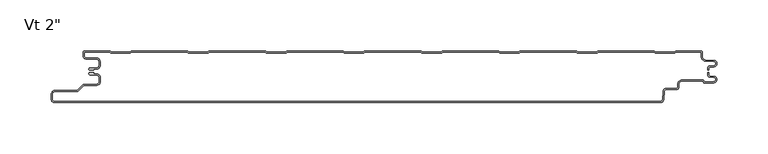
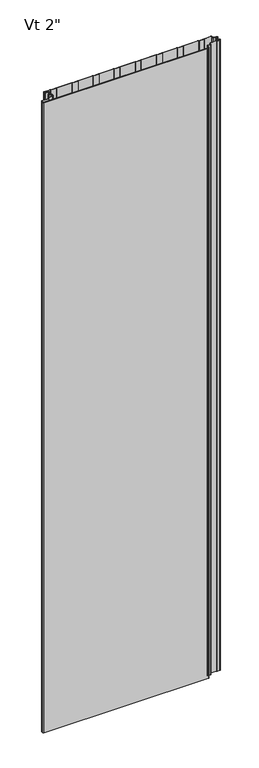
"""IFC4 building model written with IfcOpenShell, lengths in millimetres: plate geometry."""

from ifc_helpers import new_model, si_unit, point, frame, frame_2d, origin, origin_with_axes, place, context, project, spatial, polyline, circle_curve, trimmed, segment, composite_curve, outline, extrude, source, transform, mapped, element, save
from ifc_brep_helpers import plane_surface, cylinder_surface, revolved_surface, advanced_brep


def plate_a8da08d8(model_context):
    return source(origin(), model_context, "Body", "SolidModel", [
        advanced_brep(
        [(-302.7686912, -17.0015159, 2400.0), (-303.7686884, -18.0015191, 2400.0), (-302.7686912, -19.0015104, 2400.0), (-298.7684875, -19.0015105, 2400.0), (-298.7684875, -18.0015159, 2400.0), (-296.0762777, -18.0015159, 2400.0), (-292.776282, -14.7015202, 2400.0), (-292.776282, -10.301529, 2400.0), (-296.0762775, -7.0015335, 2400.0), (-306.4962564, -7.0015335, 2400.0), (-308.2662506, -5.2315393, 2400.0), (-308.2662506, -0.9999916, 2400.0), (-283.765974, -0.9999916, 2400.0), (-282.3803314, -2.2002307, 2400.0), (-263.0051651, -2.2002307, 2400.0), (-261.6195321, -1.0, 2400.0), (-207.5661167, -1.0, 2400.0), (-206.1804838, -2.2002307, 2400.0), (-186.8053175, -2.2002307, 2400.0), (-185.4196845, -1.0, 2400.0), (-131.3662691, -1.0, 2400.0), (-129.9806362, -2.2002307, 2400.0), (-110.6054699, -2.2002307, 2400.0), (-109.2198369, -1.0, 2400.0), (-55.1664215, -1.0, 2400.0), (-53.7807886, -2.2002307, 2400.0), (-34.4056223, -2.2002307, 2400.0), (-33.0199893, -1.0, 2400.0), (21.0334261, -1.0, 2400.0), (22.419059, -2.2002307, 2400.0), (41.7942253, -2.2002307, 2400.0), (43.1798583, -1.0, 2400.0), (97.2332737, -1.0, 2400.0), (98.6189066, -2.2002307, 2400.0), (117.9940729, -2.2002307, 2400.0), (119.3797059, -1.0, 2400.0), (173.4331213, -1.0, 2400.0), (174.8187542, -2.2002307, 2400.0), (194.1939205, -2.2002307, 2400.0), (195.5795535, -1.0, 2400.0), (249.6329689, -1.0, 2400.0), (251.0186018, -2.2002307, 2400.0), (270.3937681, -2.2002307, 2400.0), (271.7794011, -1.0, 2400.0), (296.2787013, -1.0, 2400.0), (296.2787013, -6.0026007, 2400.0), (300.1016499, -9.9974365, 2400.0), (308.5931719, -10.4046442, 2400.0), (308.5921924, -14.7059822, 2400.0), (304.4513685, -14.9256429, 2400.0), (302.7686884, -16.6743462, 2400.0), (302.7686884, -19.0015288, 2400.0), (303.7686884, -19.0015288, 2400.0), (303.7686884, -16.6743462, 2400.0), (304.4955779, -15.9247038, 2400.0), (308.6451655, -15.7045782, 2400.0), (308.6435732, -9.405912, 2400.0), (300.1495495, -8.9985844, 2400.0), (297.2787013, -6.0004836, 2400.0), (297.2787013, -1.4015652, 2400.0), (295.878797, -0.001568, 2400.0), (271.9275849, 2.09e-05, 2400.0), (271.0119353, -0.3417885, 2400.0), (270.0208877, -1.2002307, 2400.0), (251.3914823, -1.2002307, 2400.0), (250.4004346, -0.3417885, 2400.0), (249.4838177, 0.0, 2400.0), (195.7287046, 0.0, 2400.0), (194.8120877, -0.3417885, 2400.0), (193.8210401, -1.2002307, 2400.0), (175.1916347, -1.2002307, 2400.0), (174.200587, -0.3417885, 2400.0), (173.2839701, 0.0, 2400.0), (119.528857, 0.0, 2400.0), (118.6122401, -0.3417885, 2400.0), (117.6211925, -1.2002307, 2400.0), (98.9917871, -1.2002307, 2400.0), (98.0007394, -0.3417885, 2400.0), (97.0841225, 0.0, 2400.0), (43.3290094, 0.0, 2400.0), (42.4123925, -0.3417885, 2400.0), (41.4213449, -1.2002307, 2400.0), (22.7919395, -1.2002307, 2400.0), (21.8008918, -0.3417885, 2400.0), (20.8842749, 0.0, 2400.0), (-32.8708382, 0.0, 2400.0), (-33.7874551, -0.3417885, 2400.0), (-34.7785027, -1.2002307, 2400.0), (-53.4079081, -1.2002307, 2400.0), (-54.3989558, -0.3417885, 2400.0), (-55.3155727, 0.0, 2400.0), (-109.0706858, 0.0, 2400.0), (-109.9873027, -0.3417885, 2400.0), (-110.9783503, -1.2002307, 2400.0), (-129.6077557, -1.2002307, 2400.0), (-130.5988034, -0.3417885, 2400.0), (-131.5154203, 0.0, 2400.0), (-185.2705334, 0.0, 2400.0), (-186.1871503, -0.3417885, 2400.0), (-187.1781979, -1.2002307, 2400.0), (-205.8076033, -1.2002307, 2400.0), (-206.798651, -0.3417885, 2400.0), (-207.7152679, 0.0, 2400.0), (-261.470381, 0.0, 2400.0), (-262.3869979, -0.3417885, 2400.0), (-263.3780455, -1.2002307, 2400.0), (-282.0074509, -1.2002307, 2400.0), (-282.9984986, -0.3417885, 2400.0), (-283.9152069, 0.0, 2400.0), (-307.8662545, 8.4e-06, 2400.0), (-309.2662506, -1.3999878, 2400.0), (-309.2662506, -5.2315393, 2400.0), (-306.4962564, -8.0015335, 2400.0), (-296.0762775, -8.0015335, 2400.0), (-293.776282, -10.301529, 2400.0), (-293.776282, -14.7015202, 2400.0), (-296.0762777, -17.0015159, 2400.0), (-302.7686912, -17.0015159, 0.0), (-296.0762777, -17.0015159, 0.0), (-293.776282, -14.7015202, 0.0), (-293.776282, -10.301529, 0.0), (-296.0762775, -8.0015335, 0.0), (-306.4962564, -8.0015335, 0.0), (-309.2662506, -5.2315393, 0.0), (-309.2662506, -1.3999878, 0.0), (-307.8662545, 8.4e-06, 0.0), (-283.9151155, 8.4e-06, 0.0), (-282.9984986, -0.3417885, 0.0), (-282.0074509, -1.2002307, 0.0), (-263.3780455, -1.2002307, 0.0), (-262.3869979, -0.3417885, 0.0), (-261.470381, 0.0, 0.0), (-207.7152679, 0.0, 0.0), (-206.798651, -0.3417885, 0.0), (-205.8076033, -1.2002307, 0.0), (-187.1781979, -1.2002307, 0.0), (-186.1871503, -0.3417885, 0.0), (-185.2705334, 0.0, 0.0), (-131.5154203, 0.0, 0.0), (-130.5988034, -0.3417885, 0.0), (-129.6077557, -1.2002307, 0.0), (-110.9783503, -1.2002307, 0.0), (-109.9873027, -0.3417885, 0.0), (-109.0706858, 0.0, 0.0), (-55.3155727, 0.0, 0.0), (-54.3989558, -0.3417885, 0.0), (-53.4079081, -1.2002307, 0.0), (-34.7785027, -1.2002307, 0.0), (-33.7874551, -0.3417885, 0.0), (-32.8708382, 0.0, 0.0), (20.8842749, 0.0, 0.0), (21.8008918, -0.3417885, 0.0), (22.7919395, -1.2002307, 0.0), (41.4213449, -1.2002307, 0.0), (42.4123925, -0.3417885, 0.0), (43.3290094, 0.0, 0.0), (97.0841225, 0.0, 0.0), (98.0007394, -0.3417885, 0.0), (98.9917871, -1.2002307, 0.0), (117.6211925, -1.2002307, 0.0), (118.6122401, -0.3417885, 0.0), (119.528857, 0.0, 0.0), (173.2839701, 0.0, 0.0), (174.200587, -0.3417885, 0.0), (175.1916347, -1.2002307, 0.0), (193.8210401, -1.2002307, 0.0), (194.8120877, -0.3417885, 0.0), (195.7287046, 0.0, 0.0), (249.4838177, 0.0, 0.0), (250.4004346, -0.3417885, 0.0), (251.3914823, -1.2002307, 0.0), (270.0208877, -1.2002307, 0.0), (271.0119353, -0.3417885, 0.0), (271.9285522, 0.0, 0.0), (295.878797, 2.09e-05, 0.0), (297.2787013, -1.4015652, 0.0), (297.2787013, -6.0004836, 0.0), (300.1495495, -8.9985844, 0.0), (308.6435732, -9.405912, 0.0), (308.6451655, -15.7045782, 0.0), (304.4955779, -15.9247038, 0.0), (303.7686884, -16.6743462, 0.0), (303.7686884, -19.0015288, 0.0), (302.7686884, -19.0015288, 0.0), (302.7686884, -16.6743462, 0.0), (304.4513685, -14.9256429, 0.0), (308.5921924, -14.7059822, 0.0), (308.5931719, -10.4046442, 0.0), (300.1016499, -9.9974365, 0.0), (296.2787013, -6.0026007, 0.0), (296.2787013, -1.0, 0.0), (271.7794011, -1.0, 0.0), (270.3937681, -2.2002307, 0.0), (251.0186018, -2.2002307, 0.0), (249.6329689, -1.0, 0.0), (195.5795535, -1.0, 0.0), (194.1939205, -2.2002307, 0.0), (174.8187542, -2.2002307, 0.0), (173.4331213, -1.0, 0.0), (119.3797059, -1.0, 0.0), (117.9940729, -2.2002307, 0.0), (98.6189066, -2.2002307, 0.0), (97.2332737, -1.0, 0.0), (43.1798583, -1.0, 0.0), (41.7942253, -2.2002307, 0.0), (22.419059, -2.2002307, 0.0), (21.0334261, -1.0, 0.0), (-33.0199893, -1.0, 0.0), (-34.4056223, -2.2002307, 0.0), (-53.7807886, -2.2002307, 0.0), (-55.1664215, -1.0, 0.0), (-109.2198369, -1.0, 0.0), (-110.6054699, -2.2002307, 0.0), (-129.9806362, -2.2002307, 0.0), (-131.3662691, -1.0, 0.0), (-185.4196845, -1.0, 0.0), (-186.8053175, -2.2002307, 0.0), (-206.1804838, -2.2002307, 0.0), (-207.5661167, -1.0, 0.0), (-261.6195321, -1.0, 0.0), (-263.0051651, -2.2002307, 0.0), (-282.3803314, -2.2002307, 0.0), (-283.765974, -0.9999916, 0.0), (-308.2662506, -0.9999916, 0.0), (-308.2662506, -5.2315393, 0.0), (-306.4962564, -7.0015335, 0.0), (-296.0762775, -7.0015335, 0.0), (-292.776282, -10.301529, 0.0), (-292.776282, -14.7015202, 0.0), (-296.0762777, -18.0015159, 0.0), (-298.7684875, -18.0015159, 0.0), (-298.7684875, -19.0015105, 0.0), (-302.7686912, -19.0015105, 0.0), (-303.7686884, -18.0015191, 0.0)],
        [
            (0, 1, circle_curve(frame((-302.7686912, -18.0015132, 2400.0), z_axis=(0.0, 0.0, 1.0), x_axis=(1.0, 0.0, 0.0)), 0.9999973)),
            (1, 2, circle_curve(frame((-302.7686912, -18.0015132, 2400.0), z_axis=(0.0, 0.0, 1.0), x_axis=(1.0, 0.0, 0.0)), 0.9999972)),
            (2, 3),
            (3, 4),
            (4, 5),
            (5, 6, circle_curve(frame((-296.0762777, -14.7015202, 2400.0), z_axis=(0.0, 0.0, 1.0), x_axis=(1.0, 0.0, 0.0)), 3.2999957)),
            (6, 7),
            (7, 8, circle_curve(frame((-296.0762775, -10.301529, 2400.0), z_axis=(0.0, 0.0, 1.0), x_axis=(1.0, 0.0, 0.0)), 3.2999955)),
            (8, 9),
            (9, 10, circle_curve(frame((-306.4962564, -5.2315393, 2400.0), z_axis=(0.0, 0.0, -1.0), x_axis=(1.0, 0.0, 0.0)), 1.7699942)),
            (10, 11),
            (11, 12),
            (12, 13),
            (13, 14),
            (14, 15),
            (15, 16),
            (16, 17),
            (17, 18),
            (18, 19),
            (19, 20),
            (20, 21),
            (21, 22),
            (22, 23),
            (23, 24),
            (24, 25),
            (25, 26),
            (26, 27),
            (27, 28),
            (28, 29),
            (29, 30),
            (30, 31),
            (31, 32),
            (32, 33),
            (33, 34),
            (34, 35),
            (35, 36),
            (36, 37),
            (37, 38),
            (38, 39),
            (39, 40),
            (40, 41),
            (41, 42),
            (42, 43),
            (43, 44),
            (44, 45),
            (45, 46, circle_curve(frame((300.2939817, -5.9867338, 2400.0), z_axis=(0.0, 0.0, 1.0), x_axis=(1.0, 0.0, 0.0)), 4.0153117)),
            (46, 47),
            (47, 48, circle_curve(frame((308.4781032, -12.5552871, 2400.0), z_axis=(0.0, 0.0, -1.0), x_axis=(1.0, 0.0, 0.0)), 2.153719)),
            (48, 49),
            (49, 50, circle_curve(frame((304.5186869, -16.6743462, 2400.0), z_axis=(0.0, 0.0, 1.0), x_axis=(1.0, 0.0, 0.0)), 1.7499985)),
            (50, 51),
            (51, 52),
            (52, 53),
            (53, 54, circle_curve(frame((304.5186869, -16.6743462, 2400.0), z_axis=(0.0, 0.0, -1.0), x_axis=(1.0, 0.0, 0.0)), 0.7499985)),
            (54, 55),
            (55, 56, circle_curve(frame((308.4781032, -12.5552871, 2400.0), z_axis=(0.0, 0.0, 1.0), x_axis=(1.0, 0.0, 0.0)), 3.153719)),
            (56, 57),
            (57, 58, circle_curve(frame((300.2939817, -5.9867338, 2400.0), z_axis=(0.0, 0.0, -1.0), x_axis=(1.0, 0.0, 0.0)), 3.0153117)),
            (58, 59),
            (59, 60, circle_curve(frame((295.8787041, -1.4015652, 2400.0), z_axis=(0.0, 0.0, 1.0), x_axis=(1.0, 0.0, 0.0)), 1.3999972)),
            (60, 61),
            (61, 62, circle_curve(frame((271.9285522, -1.3999972, 2400.0), z_axis=(0.0, 0.0, 1.0), x_axis=(1.0, 0.0, 0.0)), 1.3999972)),
            (62, 63),
            (63, 64),
            (64, 65),
            (65, 66, circle_curve(frame((249.4838177, -1.3999972, 2400.0), z_axis=(0.0, 0.0, 1.0), x_axis=(1.0, 0.0, 0.0)), 1.3999972)),
            (66, 67),
            (67, 68, circle_curve(frame((195.7287046, -1.3999972, 2400.0), z_axis=(0.0, 0.0, 1.0), x_axis=(1.0, 0.0, 0.0)), 1.3999972)),
            (68, 69),
            (69, 70),
            (70, 71),
            (71, 72, circle_curve(frame((173.2839701, -1.3999972, 2400.0), z_axis=(0.0, 0.0, 1.0), x_axis=(1.0, 0.0, 0.0)), 1.3999972)),
            (72, 73),
            (73, 74, circle_curve(frame((119.528857, -1.3999972, 2400.0), z_axis=(0.0, 0.0, 1.0), x_axis=(1.0, 0.0, 0.0)), 1.3999972)),
            (74, 75),
            (75, 76),
            (76, 77),
            (77, 78, circle_curve(frame((97.0841225, -1.3999972, 2400.0), z_axis=(0.0, 0.0, 1.0), x_axis=(1.0, 0.0, 0.0)), 1.3999972)),
            (78, 79),
            (79, 80, circle_curve(frame((43.3290094, -1.3999972, 2400.0), z_axis=(0.0, 0.0, 1.0), x_axis=(1.0, 0.0, 0.0)), 1.3999972)),
            (80, 81),
            (81, 82),
            (82, 83),
            (83, 84, circle_curve(frame((20.8842749, -1.3999972, 2400.0), z_axis=(0.0, 0.0, 1.0), x_axis=(1.0, 0.0, 0.0)), 1.3999972)),
            (84, 85),
            (85, 86, circle_curve(frame((-32.8708382, -1.3999972, 2400.0), z_axis=(0.0, 0.0, 1.0), x_axis=(1.0, 0.0, 0.0)), 1.3999972)),
            (86, 87),
            (87, 88),
            (88, 89),
            (89, 90, circle_curve(frame((-55.3155727, -1.3999972, 2400.0), z_axis=(0.0, 0.0, 1.0), x_axis=(1.0, 0.0, 0.0)), 1.3999972)),
            (90, 91),
            (91, 92, circle_curve(frame((-109.0706858, -1.3999972, 2400.0), z_axis=(0.0, 0.0, 1.0), x_axis=(1.0, 0.0, 0.0)), 1.3999972)),
            (92, 93),
            (93, 94),
            (94, 95),
            (95, 96, circle_curve(frame((-131.5154203, -1.3999972, 2400.0), z_axis=(0.0, 0.0, 1.0), x_axis=(1.0, 0.0, 0.0)), 1.3999972)),
            (96, 97),
            (97, 98, circle_curve(frame((-185.2705334, -1.3999972, 2400.0), z_axis=(0.0, 0.0, 1.0), x_axis=(1.0, 0.0, 0.0)), 1.3999972)),
            (98, 99),
            (99, 100),
            (100, 101),
            (101, 102, circle_curve(frame((-207.7152679, -1.3999972, 2400.0), z_axis=(0.0, 0.0, 1.0), x_axis=(1.0, 0.0, 0.0)), 1.3999972)),
            (102, 103),
            (103, 104, circle_curve(frame((-261.470381, -1.3999972, 2400.0), z_axis=(0.0, 0.0, 1.0), x_axis=(1.0, 0.0, 0.0)), 1.3999972)),
            (104, 105),
            (105, 106),
            (106, 107),
            (107, 108, circle_curve(frame((-283.9151155, -1.3999972, 2400.0), z_axis=(0.0, 0.0, 1.0), x_axis=(1.0, 0.0, 0.0)), 1.3999972)),
            (108, 109),
            (109, 110, circle_curve(frame((-307.8662545, -1.3999878, 2400.0), z_axis=(0.0, 0.0, 1.0), x_axis=(1.0, 0.0, 0.0)), 1.3999962)),
            (110, 111),
            (111, 112, circle_curve(frame((-306.4962564, -5.2315393, 2400.0), z_axis=(0.0, 0.0, 1.0), x_axis=(1.0, 0.0, 0.0)), 2.7699942)),
            (112, 113),
            (113, 114, circle_curve(frame((-296.0762775, -10.301529, 2400.0), z_axis=(0.0, 0.0, -1.0), x_axis=(1.0, 0.0, 0.0)), 2.2999955)),
            (114, 115),
            (115, 116, circle_curve(frame((-296.0762777, -14.7015202, 2400.0), z_axis=(0.0, 0.0, -1.0), x_axis=(1.0, 0.0, 0.0)), 2.2999957)),
            (116, 0),
            (117, 118),
            (118, 119, circle_curve(frame((-296.0762777, -14.7015202, 0.0), z_axis=(0.0, 0.0, 1.0), x_axis=(1.0, 0.0, 0.0)), 2.2999957)),
            (119, 120),
            (120, 121, circle_curve(frame((-296.0762775, -10.301529, 0.0), z_axis=(0.0, 0.0, 1.0), x_axis=(1.0, 0.0, 0.0)), 2.2999955)),
            (121, 122),
            (122, 123, circle_curve(frame((-306.4962564, -5.2315393, 0.0), z_axis=(0.0, 0.0, -1.0), x_axis=(1.0, 0.0, 0.0)), 2.7699942)),
            (123, 124),
            (124, 125, circle_curve(frame((-307.8662545, -1.3999878, 0.0), z_axis=(0.0, 0.0, -1.0), x_axis=(1.0, 0.0, 0.0)), 1.3999962)),
            (125, 126),
            (126, 127, circle_curve(frame((-283.9151155, -1.3999972, 0.0), z_axis=(0.0, 0.0, -1.0), x_axis=(1.0, 0.0, 0.0)), 1.3999972)),
            (127, 128),
            (128, 129),
            (129, 130),
            (130, 131, circle_curve(frame((-261.470381, -1.3999972, 0.0), z_axis=(0.0, 0.0, -1.0), x_axis=(1.0, 0.0, 0.0)), 1.3999972)),
            (131, 132),
            (132, 133, circle_curve(frame((-207.7152679, -1.3999972, 0.0), z_axis=(0.0, 0.0, -1.0), x_axis=(1.0, 0.0, 0.0)), 1.3999972)),
            (133, 134),
            (134, 135),
            (135, 136),
            (136, 137, circle_curve(frame((-185.2705334, -1.3999972, 0.0), z_axis=(0.0, 0.0, -1.0), x_axis=(1.0, 0.0, 0.0)), 1.3999972)),
            (137, 138),
            (138, 139, circle_curve(frame((-131.5154203, -1.3999972, 0.0), z_axis=(0.0, 0.0, -1.0), x_axis=(1.0, 0.0, 0.0)), 1.3999972)),
            (139, 140),
            (140, 141),
            (141, 142),
            (142, 143, circle_curve(frame((-109.0706858, -1.3999972, 0.0), z_axis=(0.0, 0.0, -1.0), x_axis=(1.0, 0.0, 0.0)), 1.3999972)),
            (143, 144),
            (144, 145, circle_curve(frame((-55.3155727, -1.3999972, 0.0), z_axis=(0.0, 0.0, -1.0), x_axis=(1.0, 0.0, 0.0)), 1.3999972)),
            (145, 146),
            (146, 147),
            (147, 148),
            (148, 149, circle_curve(frame((-32.8708382, -1.3999972, 0.0), z_axis=(0.0, 0.0, -1.0), x_axis=(1.0, 0.0, 0.0)), 1.3999972)),
            (149, 150),
            (150, 151, circle_curve(frame((20.8842749, -1.3999972, 0.0), z_axis=(0.0, 0.0, -1.0), x_axis=(1.0, 0.0, 0.0)), 1.3999972)),
            (151, 152),
            (152, 153),
            (153, 154),
            (154, 155, circle_curve(frame((43.3290094, -1.3999972, 0.0), z_axis=(0.0, 0.0, -1.0), x_axis=(1.0, 0.0, 0.0)), 1.3999972)),
            (155, 156),
            (156, 157, circle_curve(frame((97.0841225, -1.3999972, 0.0), z_axis=(0.0, 0.0, -1.0), x_axis=(1.0, 0.0, 0.0)), 1.3999972)),
            (157, 158),
            (158, 159),
            (159, 160),
            (160, 161, circle_curve(frame((119.528857, -1.3999972, 0.0), z_axis=(0.0, 0.0, -1.0), x_axis=(1.0, 0.0, 0.0)), 1.3999972)),
            (161, 162),
            (162, 163, circle_curve(frame((173.2839701, -1.3999972, 0.0), z_axis=(0.0, 0.0, -1.0), x_axis=(1.0, 0.0, 0.0)), 1.3999972)),
            (163, 164),
            (164, 165),
            (165, 166),
            (166, 167, circle_curve(frame((195.7287046, -1.3999972, 0.0), z_axis=(0.0, 0.0, -1.0), x_axis=(1.0, 0.0, 0.0)), 1.3999972)),
            (167, 168),
            (168, 169, circle_curve(frame((249.4838177, -1.3999972, 0.0), z_axis=(0.0, 0.0, -1.0), x_axis=(1.0, 0.0, 0.0)), 1.3999972)),
            (169, 170),
            (170, 171),
            (171, 172),
            (172, 173, circle_curve(frame((271.9285522, -1.3999972, 0.0), z_axis=(0.0, 0.0, -1.0), x_axis=(1.0, 0.0, 0.0)), 1.3999972)),
            (173, 174),
            (174, 175, circle_curve(frame((295.8787041, -1.4015652, 0.0), z_axis=(0.0, 0.0, -1.0), x_axis=(1.0, 0.0, 0.0)), 1.3999972)),
            (175, 176),
            (176, 177, circle_curve(frame((300.2939817, -5.9867338, 0.0), z_axis=(0.0, 0.0, 1.0), x_axis=(1.0, 0.0, 0.0)), 3.0153117)),
            (177, 178),
            (178, 179, circle_curve(frame((308.4781032, -12.5552871, 0.0), z_axis=(0.0, 0.0, -1.0), x_axis=(1.0, 0.0, 0.0)), 3.153719)),
            (179, 180),
            (180, 181, circle_curve(frame((304.5186869, -16.6743462, 0.0), z_axis=(0.0, 0.0, 1.0), x_axis=(1.0, 0.0, 0.0)), 0.7499985)),
            (181, 182),
            (182, 183),
            (183, 184),
            (184, 185, circle_curve(frame((304.5186869, -16.6743462, 0.0), z_axis=(0.0, 0.0, -1.0), x_axis=(1.0, 0.0, 0.0)), 1.7499985)),
            (185, 186),
            (186, 187, circle_curve(frame((308.4781032, -12.5552871, 0.0), z_axis=(0.0, 0.0, 1.0), x_axis=(1.0, 0.0, 0.0)), 2.153719)),
            (187, 188),
            (188, 189, circle_curve(frame((300.2939817, -5.9867338, 0.0), z_axis=(0.0, 0.0, -1.0), x_axis=(1.0, 0.0, 0.0)), 4.0153117)),
            (189, 190),
            (190, 191),
            (191, 192),
            (192, 193),
            (193, 194),
            (194, 195),
            (195, 196),
            (196, 197),
            (197, 198),
            (198, 199),
            (199, 200),
            (200, 201),
            (201, 202),
            (202, 203),
            (203, 204),
            (204, 205),
            (205, 206),
            (206, 207),
            (207, 208),
            (208, 209),
            (209, 210),
            (210, 211),
            (211, 212),
            (212, 213),
            (213, 214),
            (214, 215),
            (215, 216),
            (216, 217),
            (217, 218),
            (218, 219),
            (219, 220),
            (220, 221),
            (221, 222),
            (222, 223),
            (223, 224),
            (224, 225, circle_curve(frame((-306.4962564, -5.2315393, 0.0), z_axis=(0.0, 0.0, 1.0), x_axis=(1.0, 0.0, 0.0)), 1.7699942)),
            (225, 226),
            (226, 227, circle_curve(frame((-296.0762775, -10.301529, 0.0), z_axis=(0.0, 0.0, -1.0), x_axis=(1.0, 0.0, 0.0)), 3.2999955)),
            (227, 228),
            (228, 229, circle_curve(frame((-296.0762777, -14.7015202, 0.0), z_axis=(0.0, 0.0, -1.0), x_axis=(1.0, 0.0, 0.0)), 3.2999957)),
            (229, 230),
            (230, 231),
            (231, 232),
            (232, 233, circle_curve(frame((-302.7686912, -18.0015132, 0.0), z_axis=(0.0, 0.0, -1.0), x_axis=(1.0, 0.0, 0.0)), 0.9999972)),
            (233, 117, circle_curve(frame((-302.7686912, -18.0015132, 0.0), z_axis=(0.0, 0.0, -1.0), x_axis=(1.0, 0.0, 0.0)), 0.9999973)),
            (116, 118),
            (117, 0),
            (115, 119),
            (114, 120),
            (113, 121),
            (112, 122),
            (111, 123),
            (110, 124),
            (109, 125),
            (108, 126),
            (90, 144),
            (143, 91),
            (107, 127),
            (106, 128),
            (105, 129),
            (103, 131),
            (130, 104),
            (101, 133),
            (132, 102),
            (86, 148),
            (147, 87),
            (142, 92),
            (141, 93),
            (96, 138),
            (137, 97),
            (89, 145),
            (88, 146),
            (85, 149),
            (136, 98),
            (99, 135),
            (134, 100),
            (95, 139),
            (94, 140),
            (2, 232),
            (231, 3),
            (1, 233),
            (84, 150),
            (83, 151),
            (82, 152),
            (81, 153),
            (80, 154),
            (79, 155),
            (78, 156),
            (77, 157),
            (76, 158),
            (75, 159),
            (74, 160),
            (73, 161),
            (72, 162),
            (71, 163),
            (70, 164),
            (69, 165),
            (68, 166),
            (67, 167),
            (66, 168),
            (65, 169),
            (64, 170),
            (63, 171),
            (62, 172),
            (61, 173),
            (60, 174),
            (59, 175),
            (58, 176),
            (57, 177),
            (56, 178),
            (55, 179),
            (54, 180),
            (53, 181),
            (52, 182),
            (51, 183),
            (50, 184),
            (49, 185),
            (48, 186),
            (47, 187),
            (46, 188),
            (45, 189),
            (44, 190),
            (43, 191),
            (42, 192),
            (41, 193),
            (40, 194),
            (39, 195),
            (38, 196),
            (37, 197),
            (36, 198),
            (35, 199),
            (34, 200),
            (33, 201),
            (32, 202),
            (31, 203),
            (30, 204),
            (29, 205),
            (28, 206),
            (27, 207),
            (26, 208),
            (25, 209),
            (24, 210),
            (23, 211),
            (22, 212),
            (21, 213),
            (20, 214),
            (19, 215),
            (18, 216),
            (17, 217),
            (16, 218),
            (15, 219),
            (14, 220),
            (13, 221),
            (12, 222),
            (11, 223),
            (10, 224),
            (9, 225),
            (8, 226),
            (7, 227),
            (6, 228),
            (5, 229),
            (4, 230),
        ],
        [
            plane_surface(frame((0.0, 0.0, 2400.0), z_axis=(0.0, 0.0, 1.0), x_axis=(0.0, 1.0, 0.0))),
            plane_surface(frame((0.0, 0.0, 0.0), z_axis=(0.0, 0.0, -1.0), x_axis=(0.0, 1.0, 0.0))),
            plane_surface(frame((-302.7686912, -17.0015159, 2400.0), z_axis=(0.0, 1.0, 0.0), x_axis=(0.0, 0.0, -1.0))),
            revolved_surface(polyline([(-293.776282, -14.7015202, 0.0), (-293.776282, -14.7015202, 2400.0)]), (-296.0762777, -14.7015202, 2400.0), (0.0, 0.0, -1.0)),
            plane_surface(frame((-293.776282, -14.7015202, 2400.0), z_axis=(-1.0, 0.0, 0.0), x_axis=(0.0, 0.0, -1.0))),
            revolved_surface(polyline([(-293.776282, -10.301529, 0.0), (-293.776282, -10.301529, 2400.0)]), (-296.0762775, -10.301529, 2400.0), (0.0, 0.0, -1.0)),
            plane_surface(frame((-296.0762775, -8.0015335, 2400.0), z_axis=(0.0, -1.0, 0.0), x_axis=(0.0, 0.0, -1.0))),
            cylinder_surface(frame((-306.4962564, -5.2315393, 2400.0), z_axis=(0.0, 0.0, 1.0), x_axis=(1.0, 0.0, 0.0)), 2.7699942),
            plane_surface(frame((-309.2662506, -5.2315393, 2400.0), z_axis=(-1.0, 0.0, 0.0), x_axis=(0.0, 0.0, -1.0))),
            cylinder_surface(frame((-307.8662545, -1.3999878, 2400.0), z_axis=(0.0, 0.0, 1.0), x_axis=(1.0, 0.0, 0.0)), 1.3999962),
            plane_surface(frame((-307.8662545, 8.4e-06, 2400.0), z_axis=(0.0, 1.0, 0.0), x_axis=(0.0, 0.0, -1.0))),
            plane_surface(frame((-109.0706858, 0.0, 2400.0), z_axis=(0.0, 1.0, 0.0), x_axis=(0.0, 0.0, -1.0))),
            cylinder_surface(frame((-283.9151155, -1.3999972, 2400.0), z_axis=(0.0, 0.0, 1.0), x_axis=(1.0, 0.0, 0.0)), 1.3999972),
            plane_surface(frame((-282.9984986, -0.3417885, 2400.0), z_axis=(0.6547276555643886, 0.755864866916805, 0.0), x_axis=(0.0, 0.0, -1.0))),
            plane_surface(frame((-272.6927482, -1.2002307, 2400.0), z_axis=(0.0, 1.0, 0.0), x_axis=(0.0, 0.0, -1.0))),
            cylinder_surface(frame((-261.470381, -1.3999972, 2400.0), z_axis=(0.0, 0.0, 1.0), x_axis=(1.0, 0.0, 0.0)), 1.3999972),
            plane_surface(frame((-263.3780455, -1.2002307, 2400.0), z_axis=(-0.6547276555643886, 0.755864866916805, 0.0), x_axis=(0.0, 0.0, -1.0))),
            cylinder_surface(frame((-207.7152679, -1.3999972, 2400.0), z_axis=(0.0, 0.0, 1.0), x_axis=(1.0, 0.0, 0.0)), 1.3999972),
            plane_surface(frame((-34.7785027, -1.2002307, 2400.0), z_axis=(-0.6547276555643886, 0.755864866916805, 0.0), x_axis=(0.0, 0.0, -1.0))),
            cylinder_surface(frame((-109.0706858, -1.3999972, 2400.0), z_axis=(0.0, 0.0, 1.0), x_axis=(1.0, 0.0, 0.0)), 1.3999972),
            plane_surface(frame((-110.9783503, -1.2002307, 2400.0), z_axis=(-0.6547276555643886, 0.755864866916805, 0.0), x_axis=(0.0, 0.0, -1.0))),
            plane_surface(frame((-185.2705334, 0.0, 2400.0), z_axis=(0.0, 1.0, 0.0), x_axis=(0.0, 0.0, -1.0))),
            cylinder_surface(frame((-55.3155727, -1.3999972, 2400.0), z_axis=(0.0, 0.0, 1.0), x_axis=(1.0, 0.0, 0.0)), 1.3999972),
            plane_surface(frame((-54.3989558, -0.3417885, 2400.0), z_axis=(0.6547276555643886, 0.755864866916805, 0.0), x_axis=(0.0, 0.0, -1.0))),
            plane_surface(frame((-44.0932054, -1.2002307, 2400.0), z_axis=(0.0, 1.0, 0.0), x_axis=(0.0, 0.0, -1.0))),
            cylinder_surface(frame((-32.8708382, -1.3999972, 2400.0), z_axis=(0.0, 0.0, 1.0), x_axis=(1.0, 0.0, 0.0)), 1.3999972),
            cylinder_surface(frame((-185.2705334, -1.3999972, 2400.0), z_axis=(0.0, 0.0, 1.0), x_axis=(1.0, 0.0, 0.0)), 1.3999972),
            plane_surface(frame((-196.4929006, -1.2002307, 2400.0), z_axis=(0.0, 1.0, 0.0), x_axis=(0.0, 0.0, -1.0))),
            plane_surface(frame((-206.798651, -0.3417885, 2400.0), z_axis=(0.6547276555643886, 0.755864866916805, 0.0), x_axis=(0.0, 0.0, -1.0))),
            plane_surface(frame((-187.1781979, -1.2002307, 2400.0), z_axis=(-0.6547276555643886, 0.755864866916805, 0.0), x_axis=(0.0, 0.0, -1.0))),
            plane_surface(frame((-261.470381, 0.0, 2400.0), z_axis=(0.0, 1.0, 0.0), x_axis=(0.0, 0.0, -1.0))),
            cylinder_surface(frame((-131.5154203, -1.3999972, 2400.0), z_axis=(0.0, 0.0, 1.0), x_axis=(1.0, 0.0, 0.0)), 1.3999972),
            plane_surface(frame((-130.5988034, -0.3417885, 2400.0), z_axis=(0.6547276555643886, 0.755864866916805, 0.0), x_axis=(0.0, 0.0, -1.0))),
            plane_surface(frame((-120.293053, -1.2002307, 2400.0), z_axis=(0.0, 1.0, 0.0), x_axis=(0.0, 0.0, -1.0))),
            plane_surface(frame((-298.7684875, -19.0015105, 2400.0), z_axis=(0.0, -1.0, 0.0), x_axis=(0.0, 0.0, -1.0))),
            cylinder_surface(frame((-302.7686912, -18.0015132, 2400.0), z_axis=(0.0, 0.0, 1.0), x_axis=(1.0, 0.0, 0.0)), 0.9999972),
            cylinder_surface(frame((-302.7686912, -18.0015132, 2400.0), z_axis=(0.0, 0.0, 1.0), x_axis=(1.0, 0.0, 0.0)), 0.9999973),
            plane_surface(frame((-32.8708382, 0.0, 2400.0), z_axis=(0.0, 1.0, 0.0), x_axis=(0.0, 0.0, -1.0))),
            cylinder_surface(frame((20.8842749, -1.3999972, 2400.0), z_axis=(0.0, 0.0, 1.0), x_axis=(1.0, 0.0, 0.0)), 1.3999972),
            plane_surface(frame((21.8008918, -0.3417885, 2400.0), z_axis=(0.6547276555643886, 0.755864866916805, 0.0), x_axis=(0.0, 0.0, -1.0))),
            plane_surface(frame((32.1066422, -1.2002307, 2400.0), z_axis=(0.0, 1.0, 0.0), x_axis=(0.0, 0.0, -1.0))),
            plane_surface(frame((41.4213449, -1.2002307, 2400.0), z_axis=(-0.6547276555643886, 0.755864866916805, 0.0), x_axis=(0.0, 0.0, -1.0))),
            cylinder_surface(frame((43.3290094, -1.3999972, 2400.0), z_axis=(0.0, 0.0, 1.0), x_axis=(1.0, 0.0, 0.0)), 1.3999972),
            plane_surface(frame((43.3290094, 0.0, 2400.0), z_axis=(0.0, 1.0, 0.0), x_axis=(0.0, 0.0, -1.0))),
            cylinder_surface(frame((97.0841225, -1.3999972, 2400.0), z_axis=(0.0, 0.0, 1.0), x_axis=(1.0, 0.0, 0.0)), 1.3999972),
            plane_surface(frame((98.0007394, -0.3417885, 2400.0), z_axis=(0.6547276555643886, 0.755864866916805, 0.0), x_axis=(0.0, 0.0, -1.0))),
            plane_surface(frame((108.3064898, -1.2002307, 2400.0), z_axis=(0.0, 1.0, 0.0), x_axis=(0.0, 0.0, -1.0))),
            plane_surface(frame((117.6211925, -1.2002307, 2400.0), z_axis=(-0.6547276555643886, 0.755864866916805, 0.0), x_axis=(0.0, 0.0, -1.0))),
            cylinder_surface(frame((119.528857, -1.3999972, 2400.0), z_axis=(0.0, 0.0, 1.0), x_axis=(1.0, 0.0, 0.0)), 1.3999972),
            plane_surface(frame((119.528857, 0.0, 2400.0), z_axis=(0.0, 1.0, 0.0), x_axis=(0.0, 0.0, -1.0))),
            cylinder_surface(frame((173.2839701, -1.3999972, 2400.0), z_axis=(0.0, 0.0, 1.0), x_axis=(1.0, 0.0, 0.0)), 1.3999972),
            plane_surface(frame((174.200587, -0.3417885, 2400.0), z_axis=(0.6547276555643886, 0.755864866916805, 0.0), x_axis=(0.0, 0.0, -1.0))),
            plane_surface(frame((184.5063374, -1.2002307, 2400.0), z_axis=(0.0, 1.0, 0.0), x_axis=(0.0, 0.0, -1.0))),
            plane_surface(frame((193.8210401, -1.2002307, 2400.0), z_axis=(-0.6547276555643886, 0.755864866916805, 0.0), x_axis=(0.0, 0.0, -1.0))),
            cylinder_surface(frame((195.7287046, -1.3999972, 2400.0), z_axis=(0.0, 0.0, 1.0), x_axis=(1.0, 0.0, 0.0)), 1.3999972),
            plane_surface(frame((195.7287046, 0.0, 2400.0), z_axis=(0.0, 1.0, 0.0), x_axis=(0.0, 0.0, -1.0))),
            cylinder_surface(frame((249.4838177, -1.3999972, 2400.0), z_axis=(0.0, 0.0, 1.0), x_axis=(1.0, 0.0, 0.0)), 1.3999972),
            plane_surface(frame((250.4004346, -0.3417885, 2400.0), z_axis=(0.6547276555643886, 0.755864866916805, 0.0), x_axis=(0.0, 0.0, -1.0))),
            plane_surface(frame((260.706185, -1.2002307, 2400.0), z_axis=(0.0, 1.0, 0.0), x_axis=(0.0, 0.0, -1.0))),
            plane_surface(frame((270.0208877, -1.2002307, 2400.0), z_axis=(-0.6547276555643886, 0.755864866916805, 0.0), x_axis=(0.0, 0.0, -1.0))),
            cylinder_surface(frame((271.9285522, -1.3999972, 2400.0), z_axis=(0.0, 0.0, 1.0), x_axis=(1.0, 0.0, 0.0)), 1.3999972),
            plane_surface(frame((271.9275849, 2.09e-05, 2400.0), z_axis=(0.0, 1.0, 0.0), x_axis=(0.0, 0.0, -1.0))),
            cylinder_surface(frame((295.8787041, -1.4015652, 2400.0), z_axis=(0.0, 0.0, 1.0), x_axis=(1.0, 0.0, 0.0)), 1.3999972),
            plane_surface(frame((297.2787013, -1.4015652, 2400.0), z_axis=(1.0, 0.0, 0.0), x_axis=(0.0, 0.0, -1.0))),
            revolved_surface(polyline([(303.3092934, -5.9867338, 0.0), (303.3092934, -5.9867338, 2400.0)]), (300.2939817, -5.9867338, 2400.0), (0.0, 0.0, -1.0)),
            plane_surface(frame((300.1495495, -8.9985844, 2400.0), z_axis=(0.047899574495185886, 0.9988521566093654, 0.0), x_axis=(0.0, 0.0, -1.0))),
            cylinder_surface(frame((308.4781032, -12.5552871, 2400.0), z_axis=(0.0, 0.0, 1.0), x_axis=(1.0, 0.0, 0.0)), 3.153719),
            plane_surface(frame((308.6451655, -15.7045782, 2400.0), z_axis=(0.05297310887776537, -0.9985959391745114, 0.0), x_axis=(0.0, 0.0, -1.0))),
            revolved_surface(polyline([(305.2686854, -16.6743462, 0.0), (305.2686854, -16.6743462, 2400.0)]), (304.5186869, -16.6743462, 2400.0), (0.0, 0.0, -1.0)),
            plane_surface(frame((303.7686884, -17.5871409, 2400.0), z_axis=(1.0, 0.0, 0.0), x_axis=(0.0, 0.0, -1.0))),
            plane_surface(frame((303.7686884, -19.0015288, 2400.0), z_axis=(0.0, -1.0, 0.0), x_axis=(0.0, 0.0, -1.0))),
            plane_surface(frame((302.7686884, -17.5871409, 2400.0), z_axis=(-1.0, 0.0, 0.0), x_axis=(0.0, 0.0, -1.0))),
            cylinder_surface(frame((304.5186869, -16.6743462, 2400.0), z_axis=(0.0, 0.0, 1.0), x_axis=(1.0, 0.0, 0.0)), 1.7499985),
            plane_surface(frame((304.4513685, -14.9256429, 2400.0), z_axis=(-0.05297310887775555, 0.998595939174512, 0.0), x_axis=(0.0, 0.0, -1.0))),
            revolved_surface(polyline([(310.63182220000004, -12.5552871, 0.0), (310.63182220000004, -12.5552871, 2400.0)]), (308.4781032, -12.5552871, 2400.0), (0.0, 0.0, -1.0)),
            plane_surface(frame((308.5931719, -10.4046442, 2400.0), z_axis=(-0.04789957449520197, -0.9988521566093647, 0.0), x_axis=(0.0, 0.0, -1.0))),
            cylinder_surface(frame((300.2939817, -5.9867338, 2400.0), z_axis=(0.0, 0.0, 1.0), x_axis=(1.0, 0.0, 0.0)), 4.0153117),
            plane_surface(frame((296.2787013, -6.0026007, 2400.0), z_axis=(-1.0, 0.0, 0.0), x_axis=(0.0, 0.0, -1.0))),
            plane_surface(frame((296.2787013, -1.0, 2400.0), z_axis=(0.0, -1.0, 0.0), x_axis=(0.0, 0.0, -1.0))),
            plane_surface(frame((271.7794011, -1.0, 2400.0), z_axis=(0.6547276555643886, -0.755864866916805, 0.0), x_axis=(0.0, 0.0, -1.0))),
            plane_surface(frame((270.3937681, -2.2002307, 2400.0), z_axis=(0.0, -1.0, 0.0), x_axis=(0.0, 0.0, -1.0))),
            plane_surface(frame((251.0186018, -2.2002307, 2400.0), z_axis=(-0.6547276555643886, -0.755864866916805, 0.0), x_axis=(0.0, 0.0, -1.0))),
            plane_surface(frame((249.6329689, -1.0, 2400.0), z_axis=(0.0, -1.0, 0.0), x_axis=(0.0, 0.0, -1.0))),
            plane_surface(frame((195.5795535, -1.0, 2400.0), z_axis=(0.6547276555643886, -0.755864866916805, 0.0), x_axis=(0.0, 0.0, -1.0))),
            plane_surface(frame((194.1939205, -2.2002307, 2400.0), z_axis=(0.0, -1.0, 0.0), x_axis=(0.0, 0.0, -1.0))),
            plane_surface(frame((174.8187542, -2.2002307, 2400.0), z_axis=(-0.6547276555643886, -0.755864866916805, 0.0), x_axis=(0.0, 0.0, -1.0))),
            plane_surface(frame((173.4331213, -1.0, 2400.0), z_axis=(0.0, -1.0, 0.0), x_axis=(0.0, 0.0, -1.0))),
            plane_surface(frame((119.3797059, -1.0, 2400.0), z_axis=(0.6547276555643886, -0.755864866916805, 0.0), x_axis=(0.0, 0.0, -1.0))),
            plane_surface(frame((117.9940729, -2.2002307, 2400.0), z_axis=(0.0, -1.0, 0.0), x_axis=(0.0, 0.0, -1.0))),
            plane_surface(frame((98.6189066, -2.2002307, 2400.0), z_axis=(-0.6547276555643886, -0.755864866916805, 0.0), x_axis=(0.0, 0.0, -1.0))),
            plane_surface(frame((97.2332737, -1.0, 2400.0), z_axis=(0.0, -1.0, 0.0), x_axis=(0.0, 0.0, -1.0))),
            plane_surface(frame((43.1798583, -1.0, 2400.0), z_axis=(0.6547276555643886, -0.755864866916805, 0.0), x_axis=(0.0, 0.0, -1.0))),
            plane_surface(frame((41.7942253, -2.2002307, 2400.0), z_axis=(0.0, -1.0, 0.0), x_axis=(0.0, 0.0, -1.0))),
            plane_surface(frame((22.419059, -2.2002307, 2400.0), z_axis=(-0.6547276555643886, -0.755864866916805, 0.0), x_axis=(0.0, 0.0, -1.0))),
            plane_surface(frame((21.0334261, -1.0, 2400.0), z_axis=(0.0, -1.0, 0.0), x_axis=(0.0, 0.0, -1.0))),
            plane_surface(frame((-33.0199893, -1.0, 2400.0), z_axis=(0.6547276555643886, -0.755864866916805, 0.0), x_axis=(0.0, 0.0, -1.0))),
            plane_surface(frame((-34.4056223, -2.2002307, 2400.0), z_axis=(0.0, -1.0, 0.0), x_axis=(0.0, 0.0, -1.0))),
            plane_surface(frame((-53.7807886, -2.2002307, 2400.0), z_axis=(-0.6547276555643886, -0.755864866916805, 0.0), x_axis=(0.0, 0.0, -1.0))),
            plane_surface(frame((-55.1664215, -1.0, 2400.0), z_axis=(0.0, -1.0, 0.0), x_axis=(0.0, 0.0, -1.0))),
            plane_surface(frame((-109.2198369, -1.0, 2400.0), z_axis=(0.6547276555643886, -0.755864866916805, 0.0), x_axis=(0.0, 0.0, -1.0))),
            plane_surface(frame((-110.6054699, -2.2002307, 2400.0), z_axis=(0.0, -1.0, 0.0), x_axis=(0.0, 0.0, -1.0))),
            plane_surface(frame((-129.9806362, -2.2002307, 2400.0), z_axis=(-0.6547276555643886, -0.755864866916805, 0.0), x_axis=(0.0, 0.0, -1.0))),
            plane_surface(frame((-131.3662691, -1.0, 2400.0), z_axis=(0.0, -1.0, 0.0), x_axis=(0.0, 0.0, -1.0))),
            plane_surface(frame((-185.4196845, -1.0, 2400.0), z_axis=(0.6547276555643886, -0.755864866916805, 0.0), x_axis=(0.0, 0.0, -1.0))),
            plane_surface(frame((-186.8053175, -2.2002307, 2400.0), z_axis=(0.0, -1.0, 0.0), x_axis=(0.0, 0.0, -1.0))),
            plane_surface(frame((-206.1804838, -2.2002307, 2400.0), z_axis=(-0.6547276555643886, -0.755864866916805, 0.0), x_axis=(0.0, 0.0, -1.0))),
            plane_surface(frame((-207.5661167, -1.0, 2400.0), z_axis=(0.0, -1.0, 0.0), x_axis=(0.0, 0.0, -1.0))),
            plane_surface(frame((-261.6195321, -1.0, 2400.0), z_axis=(0.6547276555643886, -0.755864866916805, 0.0), x_axis=(0.0, 0.0, -1.0))),
            plane_surface(frame((-263.0051651, -2.2002307, 2400.0), z_axis=(0.0, -1.0, 0.0), x_axis=(0.0, 0.0, -1.0))),
            plane_surface(frame((-282.3803314, -2.2002307, 2400.0), z_axis=(-0.6547276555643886, -0.755864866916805, 0.0), x_axis=(0.0, 0.0, -1.0))),
            plane_surface(frame((-283.765974, -0.9999916, 2400.0), z_axis=(0.0, -1.0, 0.0), x_axis=(0.0, 0.0, -1.0))),
            plane_surface(frame((-308.2662506, -0.9999916, 2400.0), z_axis=(1.0, 0.0, 0.0), x_axis=(0.0, 0.0, -1.0))),
            revolved_surface(polyline([(-304.7262622, -5.2315393, 0.0), (-304.7262622, -5.2315393, 2400.0)]), (-306.4962564, -5.2315393, 2400.0), (0.0, 0.0, -1.0)),
            plane_surface(frame((-306.4962564, -7.0015335, 2400.0), z_axis=(0.0, 1.0, 0.0), x_axis=(0.0, 0.0, -1.0))),
            cylinder_surface(frame((-296.0762775, -10.301529, 2400.0), z_axis=(0.0, 0.0, 1.0), x_axis=(1.0, 0.0, 0.0)), 3.2999955),
            plane_surface(frame((-292.776282, -10.301529, 2400.0), z_axis=(1.0, 0.0, 0.0), x_axis=(0.0, 0.0, -1.0))),
            cylinder_surface(frame((-296.0762777, -14.7015202, 2400.0), z_axis=(0.0, 0.0, 1.0), x_axis=(1.0, 0.0, 0.0)), 3.2999957),
            plane_surface(frame((-296.0762777, -18.0015159, 2400.0), z_axis=(0.0, -1.0, 0.0), x_axis=(0.0, 0.0, -1.0))),
            plane_surface(frame((-298.7684875, -18.0015159, 2400.0), z_axis=(1.0, 0.0, 0.0), x_axis=(0.0, 0.0, -1.0))),
        ],
        [
            (0, [[1, 2, 3, 4, 5, 6, 7, 8, 9, 10, 11, 12, 13, 14, 15, 16, 17, 18, 19, 20, 21, 22, 23, 24, 25, 26, 27, 28, 29, 30, 31, 32, 33, 34, 35, 36, 37, 38, 39, 40, 41, 42, 43, 44, 45, 46, 47, 48, 49, 50, 51, 52, 53, 54, 55, 56, 57, 58, 59, 60, 61, 62, 63, 64, 65, 66, 67, 68, 69, 70, 71, 72, 73, 74, 75, 76, 77, 78, 79, 80, 81, 82, 83, 84, 85, 86, 87, 88, 89, 90, 91, 92, 93, 94, 95, 96, 97, 98, 99, 100, 101, 102, 103, 104, 105, 106, 107, 108, 109, 110, 111, 112, 113, 114, 115, 116, 117]]),
            (1, [[118, 119, 120, 121, 122, 123, 124, 125, 126, 127, 128, 129, 130, 131, 132, 133, 134, 135, 136, 137, 138, 139, 140, 141, 142, 143, 144, 145, 146, 147, 148, 149, 150, 151, 152, 153, 154, 155, 156, 157, 158, 159, 160, 161, 162, 163, 164, 165, 166, 167, 168, 169, 170, 171, 172, 173, 174, 175, 176, 177, 178, 179, 180, 181, 182, 183, 184, 185, 186, 187, 188, 189, 190, 191, 192, 193, 194, 195, 196, 197, 198, 199, 200, 201, 202, 203, 204, 205, 206, 207, 208, 209, 210, 211, 212, 213, 214, 215, 216, 217, 218, 219, 220, 221, 222, 223, 224, 225, 226, 227, 228, 229, 230, 231, 232, 233, 234]]),
            (2, [[235, -118, 236, -117]]),
            (3, [[237, -119, -235, -116]]),
            (4, [[238, -120, -237, -115]]),
            (5, [[239, -121, -238, -114]]),
            (6, [[240, -122, -239, -113]]),
            (7, [[241, -123, -240, -112]]),
            (8, [[242, -124, -241, -111]]),
            (9, [[243, -125, -242, -110]]),
            (10, [[244, -126, -243, -109]]),
            (11, [[245, -144, 246, -91]]),
            (12, [[247, -127, -244, -108]]),
            (13, [[248, -128, -247, -107]]),
            (14, [[-106, 249, -129, -248]]),
            (15, [[250, -131, 251, -104]]),
            (16, [[-251, -130, -249, -105]]),
            (17, [[252, -133, 253, -102]]),
            (18, [[254, -148, 255, -87]]),
            (19, [[-246, -143, 256, -92]]),
            (20, [[-256, -142, 257, -93]]),
            (21, [[258, -138, 259, -97]]),
            (22, [[260, -145, -245, -90]]),
            (23, [[261, -146, -260, -89]]),
            (24, [[-88, -255, -147, -261]]),
            (25, [[262, -149, -254, -86]]),
            (26, [[-259, -137, 263, -98]]),
            (27, [[-100, 264, -135, 265]]),
            (28, [[-265, -134, -252, -101]]),
            (29, [[-263, -136, -264, -99]]),
            (30, [[-253, -132, -250, -103]]),
            (31, [[266, -139, -258, -96]]),
            (32, [[267, -140, -266, -95]]),
            (33, [[-94, -257, -141, -267]]),
            (34, [[268, -232, 269, -3]]),
            (35, [[270, -233, -268, -2]]),
            (36, [[-236, -234, -270, -1]]),
            (37, [[271, -150, -262, -85]]),
            (38, [[272, -151, -271, -84]]),
            (39, [[273, -152, -272, -83]]),
            (40, [[-82, 274, -153, -273]]),
            (41, [[275, -154, -274, -81]]),
            (42, [[276, -155, -275, -80]]),
            (43, [[277, -156, -276, -79]]),
            (44, [[278, -157, -277, -78]]),
            (45, [[279, -158, -278, -77]]),
            (46, [[-76, 280, -159, -279]]),
            (47, [[281, -160, -280, -75]]),
            (48, [[282, -161, -281, -74]]),
            (49, [[283, -162, -282, -73]]),
            (50, [[284, -163, -283, -72]]),
            (51, [[285, -164, -284, -71]]),
            (52, [[-70, 286, -165, -285]]),
            (53, [[287, -166, -286, -69]]),
            (54, [[288, -167, -287, -68]]),
            (55, [[289, -168, -288, -67]]),
            (56, [[290, -169, -289, -66]]),
            (57, [[291, -170, -290, -65]]),
            (58, [[-64, 292, -171, -291]]),
            (59, [[293, -172, -292, -63]]),
            (60, [[294, -173, -293, -62]]),
            (61, [[295, -174, -294, -61]]),
            (62, [[296, -175, -295, -60]]),
            (63, [[297, -176, -296, -59]]),
            (64, [[298, -177, -297, -58]]),
            (65, [[299, -178, -298, -57]]),
            (66, [[300, -179, -299, -56]]),
            (67, [[301, -180, -300, -55]]),
            (68, [[302, -181, -301, -54]]),
            (69, [[-53, 303, -182, -302]]),
            (70, [[304, -183, -303, -52]]),
            (71, [[-51, 305, -184, -304]]),
            (72, [[306, -185, -305, -50]]),
            (73, [[307, -186, -306, -49]]),
            (74, [[308, -187, -307, -48]]),
            (75, [[309, -188, -308, -47]]),
            (76, [[310, -189, -309, -46]]),
            (77, [[311, -190, -310, -45]]),
            (78, [[312, -191, -311, -44]]),
            (79, [[313, -192, -312, -43]]),
            (80, [[314, -193, -313, -42]]),
            (81, [[315, -194, -314, -41]]),
            (82, [[316, -195, -315, -40]]),
            (83, [[317, -196, -316, -39]]),
            (84, [[318, -197, -317, -38]]),
            (85, [[319, -198, -318, -37]]),
            (86, [[320, -199, -319, -36]]),
            (87, [[321, -200, -320, -35]]),
            (88, [[322, -201, -321, -34]]),
            (89, [[323, -202, -322, -33]]),
            (90, [[324, -203, -323, -32]]),
            (91, [[325, -204, -324, -31]]),
            (92, [[326, -205, -325, -30]]),
            (93, [[327, -206, -326, -29]]),
            (94, [[328, -207, -327, -28]]),
            (95, [[329, -208, -328, -27]]),
            (96, [[330, -209, -329, -26]]),
            (97, [[331, -210, -330, -25]]),
            (98, [[332, -211, -331, -24]]),
            (99, [[333, -212, -332, -23]]),
            (100, [[334, -213, -333, -22]]),
            (101, [[335, -214, -334, -21]]),
            (102, [[336, -215, -335, -20]]),
            (103, [[337, -216, -336, -19]]),
            (104, [[338, -217, -337, -18]]),
            (105, [[339, -218, -338, -17]]),
            (106, [[340, -219, -339, -16]]),
            (107, [[341, -220, -340, -15]]),
            (108, [[342, -221, -341, -14]]),
            (109, [[343, -222, -342, -13]]),
            (110, [[344, -223, -343, -12]]),
            (111, [[345, -224, -344, -11]]),
            (112, [[346, -225, -345, -10]]),
            (113, [[347, -226, -346, -9]]),
            (114, [[348, -227, -347, -8]]),
            (115, [[349, -228, -348, -7]]),
            (116, [[350, -229, -349, -6]]),
            (117, [[351, -230, -350, -5]]),
            (118, [[-269, -231, -351, -4]]),
        ],
    ),
        extrude(outline(composite_curve([segment(polyline([(-340.8087507, -46.9183604), (-340.3690675, -41.8944437)]), True, "CONTINUOUS"), segment(trimmed(circle_curve(frame_2d((-336.7198392, -42.5052448)), 3.6999926), [point((-340.3690675, -41.8944437))], [point((-336.7198392, -38.8052522))], False, "CARTESIAN"), True, "CONTINUOUS"), segment(polyline([(-336.7198392, -38.8052522), (-315.5773997, -38.8052522)]), True, "CONTINUOUS"), segment(trimmed(circle_curve(frame_2d((-315.5773997, -37.5052548)), 1.2999974), [point((-315.5773997, -38.8052522))], [point((-314.6581627, -38.4244918))], True, "CARTESIAN"), True, "CONTINUOUS"), segment(polyline([(-314.6581627, -38.4244918), (-309.8297453, -33.5960743)]), True, "CONTINUOUS"), segment(trimmed(circle_curve(frame_2d((-307.9205608, -35.5052588)), 2.6999946), [point((-309.8297453, -33.5960743))], [point((-307.9205608, -32.8052642))], False, "CARTESIAN"), True, "CONTINUOUS"), segment(polyline([(-307.9205608, -32.8052642), (-296.1096717, -32.8052642)]), True, "CONTINUOUS"), segment(trimmed(circle_curve(frame_2d((-296.1096717, -30.4552689)), 2.3499953), [point((-296.1096717, -32.8052642))], [point((-293.7596764, -30.4552689))], True, "CARTESIAN"), True, "CONTINUOUS"), segment(polyline([(-293.7596764, -30.4552689), (-293.7596764, -26.0552777)]), True, "CONTINUOUS"), segment(trimmed(circle_curve(frame_2d((-296.1096717, -26.0552777)), 2.3499953), [point((-293.7596764, -26.0552777))], [point((-296.1096717, -23.7052824))], True, "CARTESIAN"), True, "CONTINUOUS"), segment(polyline([(-296.1096717, -23.7052824), (-302.6289779, -23.7052824)]), True, "CONTINUOUS"), segment(trimmed(circle_curve(frame_2d((-302.5686908, -22.5068002)), 1.1999976), [point((-302.6289779, -23.7052824))], [point((-303.7683001, -22.4762782))], False, "CARTESIAN"), True, "CONTINUOUS"), segment(trimmed(circle_curve(frame_2d((-302.5686908, -22.5068002)), 1.1999976), [point((-303.7683001, -22.4762782))], [point((-302.5671761, -21.3068035))], False, "CARTESIAN"), True, "CONTINUOUS"), segment(polyline([(-302.5671761, -21.3068035), (-298.8087827, -21.3068035), (-298.8087827, -22.7052824), (-296.1096717, -22.7052824)]), True, "CONTINUOUS"), segment(trimmed(circle_curve(frame_2d((-296.1096717, -26.0552777)), 3.3499953), [point((-296.1096717, -22.7052824))], [point((-292.7596764, -26.0552777))], False, "CARTESIAN"), True, "CONTINUOUS"), segment(polyline([(-292.7596764, -26.0552777), (-292.7596764, -30.4552689)]), True, "CONTINUOUS"), segment(trimmed(circle_curve(frame_2d((-296.1096717, -30.4552689)), 3.3499953), [point((-292.7596764, -30.4552689))], [point((-296.1096717, -33.8052642))], False, "CARTESIAN"), True, "CONTINUOUS"), segment(polyline([(-296.1096717, -33.8052642), (-307.9205608, -33.8052642)]), True, "CONTINUOUS"), segment(trimmed(circle_curve(frame_2d((-307.9205608, -35.5052588)), 1.6999946), [point((-307.9205608, -33.8052642))], [point((-309.1226385, -34.3031811))], True, "CARTESIAN"), True, "CONTINUOUS"), segment(polyline([(-309.1226385, -34.3031811), (-314.6247096, -39.8052522), (-336.7198392, -39.8052522)]), True, "CONTINUOUS"), segment(trimmed(circle_curve(frame_2d((-336.7198392, -42.5052448)), 2.6999926), [point((-336.7198392, -39.8052522))], [point((-339.3765709, -42.0238542))], True, "CARTESIAN"), True, "CONTINUOUS"), segment(polyline([(-339.3765709, -42.0238542), (-339.8125699, -47.0056751)]), True, "CONTINUOUS"), segment(trimmed(circle_curve(frame_2d((-337.2521176, -47.2297607)), 2.5702393), [point((-339.8125699, -47.0056751))], [point((-337.309446, -49.7993606))], True, "CARTESIAN"), True, "CONTINUOUS"), segment(polyline([(-337.309446, -49.7993606), (256.3384359, -49.7993606)]), True, "CONTINUOUS"), segment(trimmed(circle_curve(frame_2d((256.3384359, -47.8493665)), 1.9499941), [point((256.3384359, -49.7993606))], [point((258.2810097, -48.0193197))], True, "CARTESIAN"), True, "CONTINUOUS"), segment(polyline([(258.2810097, -48.0193197), (259.0215397, -39.5550232)]), True, "CONTINUOUS"), segment(trimmed(circle_curve(frame_2d((262.0400056, -39.8191048)), 3.0299959), [point((259.0215397, -39.5550232))], [point((262.1657441, -36.7917189))], False, "CARTESIAN"), True, "CONTINUOUS"), segment(polyline([(262.1657441, -36.7917189), (272.2586765, -36.7917189)]), True, "CONTINUOUS"), segment(trimmed(circle_curve(frame_2d((272.2595944, -35.8425659)), 0.9491534), [point((272.2586765, -36.7917189))], [point((273.2087478, -35.8425659))], True, "CARTESIAN"), True, "CONTINUOUS"), segment(polyline([(273.2087478, -35.8425659), (273.2087475, -32.7011658)]), True, "CONTINUOUS"), segment(trimmed(circle_curve(frame_2d((277.2087415, -32.7011658)), 3.999994), [point((273.2087475, -32.7011658))], [point((277.2087415, -28.7011718))], False, "CARTESIAN"), True, "CONTINUOUS"), segment(polyline([(277.2087415, -28.7011718), (298.3895515, -28.7011718), (299.5334028, -30.6823803), (308.506811, -30.3271199)]), True, "CONTINUOUS"), segment(trimmed(circle_curve(frame_2d((308.4236622, -28.2268913)), 2.1018739), [point((308.506811, -30.3271199))], [point((308.5037148, -26.1265424))], True, "CARTESIAN"), True, "CONTINUOUS"), segment(polyline([(308.5037148, -26.1265424), (304.4977997, -25.8821274)]), True, "CONTINUOUS"), segment(trimmed(circle_curve(frame_2d((304.6099653, -24.0437539)), 1.8417922), [point((304.4977997, -25.8821274))], [point((302.7686884, -24.0873149))], False, "CARTESIAN"), True, "CONTINUOUS"), segment(polyline([(302.7686884, -24.0873149), (302.7686884, -21.3027683), (303.7686884, -21.3027683), (303.7686884, -24.0732011)]), True, "CONTINUOUS"), segment(trimmed(circle_curve(frame_2d((304.6099653, -24.0437539)), 0.8417922), [point((303.7686884, -24.0732011))], [point((304.5587, -24.8839836))], True, "CARTESIAN"), True, "CONTINUOUS"), segment(polyline([(304.5587, -24.8839836), (308.5543204, -25.1277704)]), True, "CONTINUOUS"), segment(trimmed(circle_curve(frame_2d((308.4236622, -28.2268913)), 3.1018739), [point((308.5543204, -25.1277704))], [point((308.5463704, -31.3263372))], False, "CARTESIAN"), True, "CONTINUOUS"), segment(polyline([(308.5463704, -31.3263372), (299.8344401, -31.6712455)]), True, "CONTINUOUS"), segment(trimmed(circle_curve(frame_2d((299.787224, -30.2220173)), 1.4499971), [point((299.8344401, -31.6712455))], [point((298.5314897, -30.9470159))], False, "CARTESIAN"), True, "CONTINUOUS"), segment(polyline([(298.5314897, -30.9470159), (297.8122013, -29.7011718), (277.2087415, -29.7011718)]), True, "CONTINUOUS"), segment(trimmed(circle_curve(frame_2d((277.2087415, -32.7011658)), 2.999994), [point((277.2087415, -29.7011718))], [point((274.2087475, -32.7011658))], True, "CARTESIAN"), True, "CONTINUOUS"), segment(polyline([(274.2087475, -32.7011658), (274.2087475, -35.8425659)]), True, "CONTINUOUS"), segment(trimmed(circle_curve(frame_2d((272.2595944, -35.8425659)), 1.9491534), [point((274.2087475, -35.8425659))], [point((272.258279, -37.7917189))], False, "CARTESIAN"), True, "CONTINUOUS"), segment(polyline([(272.258279, -37.7917189), (262.1429135, -37.7917189)]), True, "CONTINUOUS"), segment(trimmed(circle_curve(frame_2d((262.0400056, -39.8191048)), 2.0299959), [point((262.1429135, -37.7917189))], [point((260.0177344, -39.642179))], True, "CARTESIAN"), True, "CONTINUOUS"), segment(polyline([(260.0177344, -39.642179), (259.2771931, -48.1066053)]), True, "CONTINUOUS"), segment(trimmed(circle_curve(frame_2d((256.3384246, -47.8494964)), 2.9499941), [point((259.2771931, -48.1066053))], [point((256.3384265, -50.7994905))], False, "CARTESIAN"), True, "CONTINUOUS"), segment(polyline([(256.3384265, -50.7994905), (-337.252104, -50.7998701)]), True, "CONTINUOUS"), segment(trimmed(circle_curve(frame_2d((-337.2521063, -47.2296308)), 3.5702393), [point((-337.252104, -50.7998701))], [point((-340.8087507, -46.9183604))], False, "CARTESIAN"), True, "CONTINUOUS")], self_intersect=False)), origin_with_axes(), (0.0, 0.0, 1.0), 2400.0),
    ])


if __name__ == "__main__":
    model = new_model("IFC4")
    model_context = context("Model", 3, world=origin())
    ifc_project = project(units=[si_unit("LENGTHUNIT", "METRE", prefix="MILLI")], contexts=[model_context])
    site = spatial("IfcSite", under=ifc_project)
    building = spatial("IfcBuilding", under=site)
    placement = place(None, origin())
    plate_shape = plate_a8da08d8(model_context)
    element("IfcPlate", 1, ObjectType="KIP-24-Karrier-KP-R19-CP-Vt-FL3-8in_SL : Vt 2\"", at=placement, inside=building, context=model_context, shape_type="MappedRepresentation", body=[
        mapped(plate_shape, transform((0.0, 0.0, 0.0), x_axis=(1.0, 0.0, 0.0), y_axis=(0.0, 1.0, 0.0), z_axis=(0.0, 0.0, 1.0))),
    ])
    save(model, "model.ifc")
